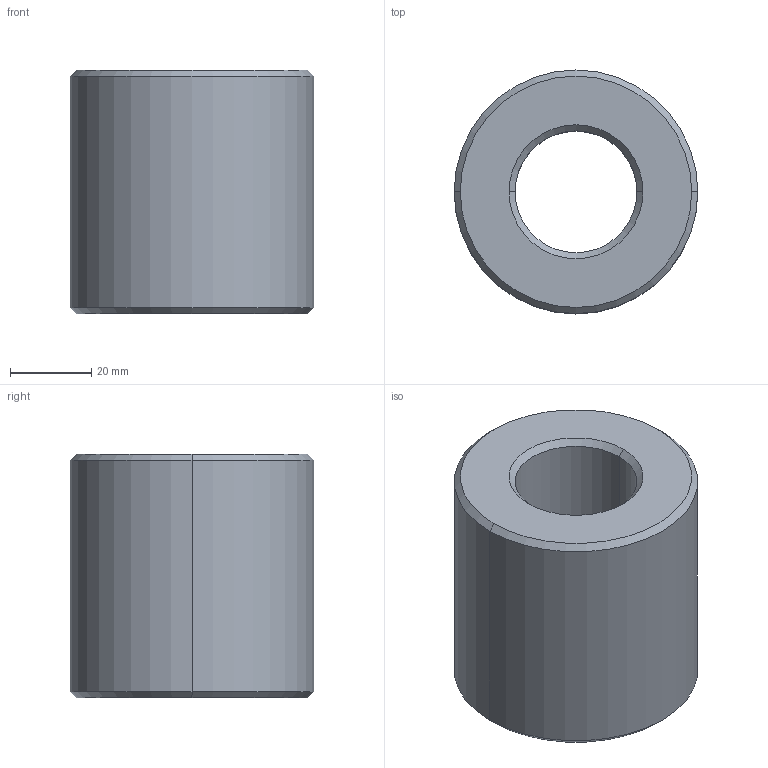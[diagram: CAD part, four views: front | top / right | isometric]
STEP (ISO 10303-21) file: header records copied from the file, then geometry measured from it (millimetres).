
FILE_DESCRIPTION (( 'STEP AP203' ), '1' );
FILE_NAME ('L1343.R30-06.step', '2024-10-24T14:43:51', ( '' ), ( '' ), 'SwSTEP 2.0', 'SolidWorks 2019', '' );
FILE_SCHEMA (( 'CONFIG_CONTROL_DESIGN' ));
Length unit declared in the file: millimetre
Products named in the file (1): L1343.R30-06
Bounding box: 60 x 60 x 60 mm (x, y, z)
Volume: 126598.3 mm3; surface area: 20708.9 mm2
Topology: 1 solids, 1 shells, 14 faces, 28 edges, 16 vertices
Faces by surface type: cone 8, cylinder 4, plane 2
Entity records: 445 total; most frequent: DIRECTION 74, CARTESIAN_POINT 59, ORIENTED_EDGE 56, AXIS2_PLACEMENT_3D 31, EDGE_CURVE 28, CIRCLE 16, VERTEX_POINT 16, EDGE_LOOP 16
